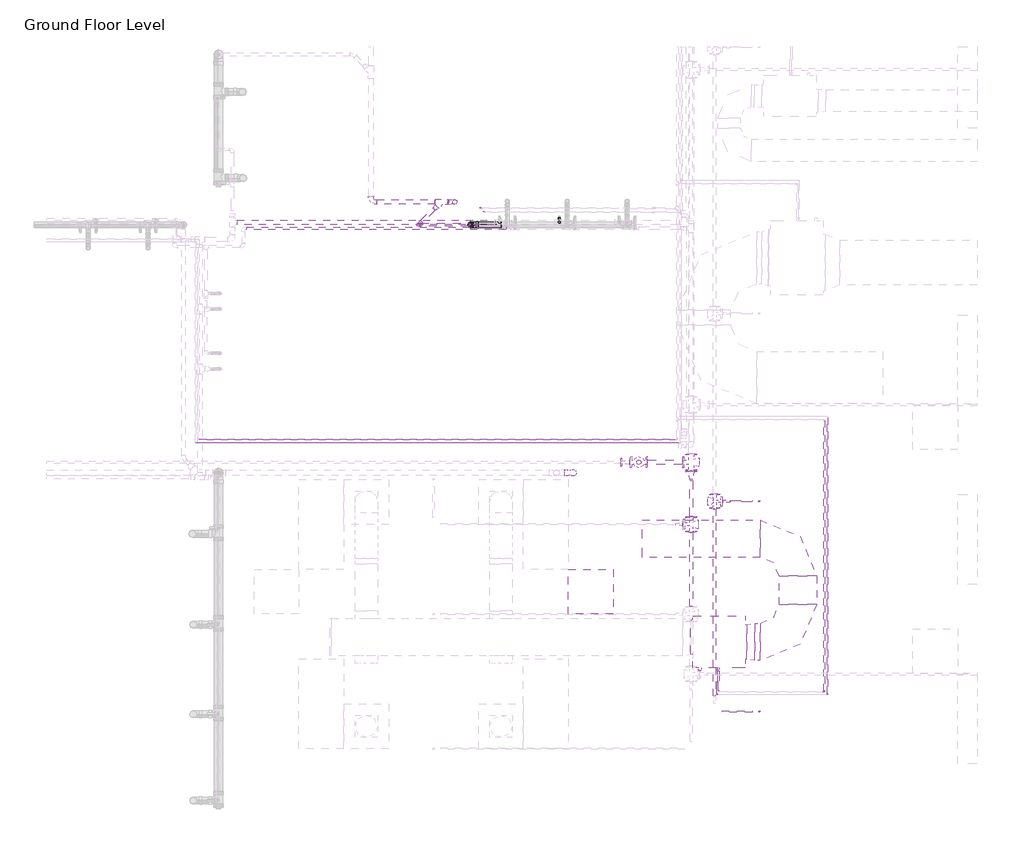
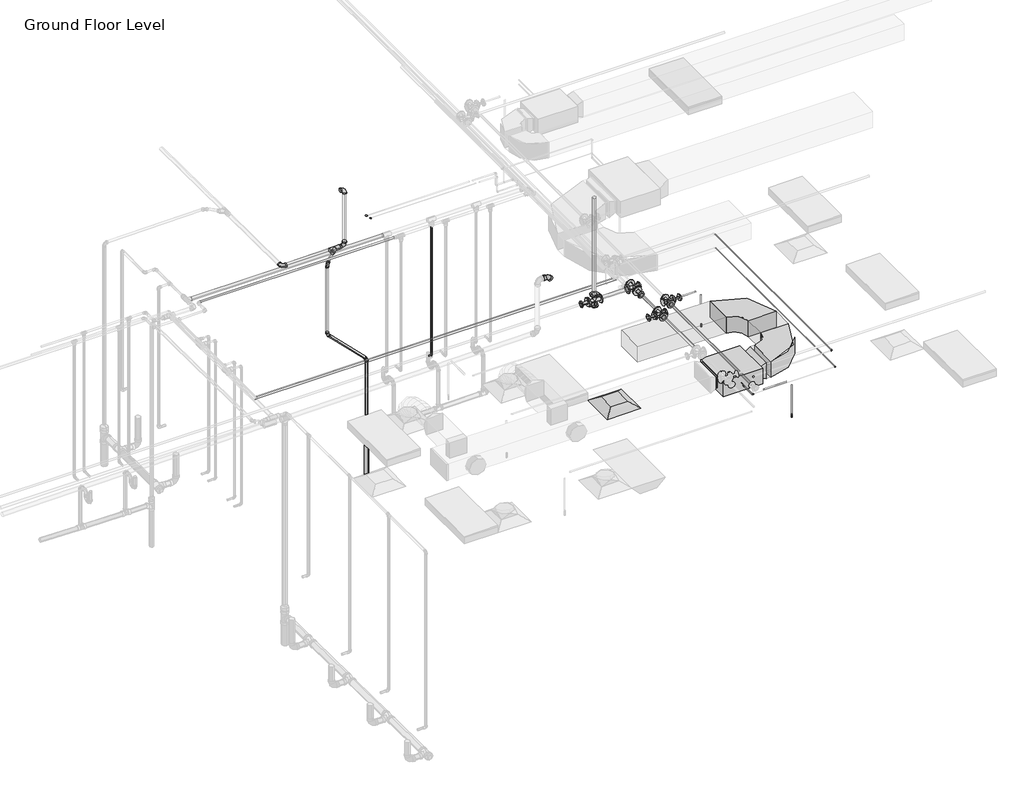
# One storey, part 16 of 75: 29 pipe segments, 24 pipe fittings, 3 duct fittings, 3 duct segments, 2 fire suppression terminals, 1 air terminal, 1 proxy.
"""IFC4 building model written with IfcOpenShell, lengths in millimetres."""

from ifc_helpers import new_model, si_unit, point, frame, frame_2d, origin, place, context, project, spatial, polyline, circle_curve, trimmed, segment, composite_curve, outline, extrude, transform, mapped, element, save
from components import m_return_diffuser_600_x_600_face_300_x_300_connection_ff221211, fcu_daikin_iu_bad131e0, m_rectangular_elbow_radius_1_w_abe20169, m_rectangular_transition_angle_45_degree_f7c2916c, m_sprinkler_pendent_15_mm_pendent_06fcbd8e, m_bend_pvc_sch_40_dwv_standard_123b45f9, m_bend_pvc_sch_40_dwv_standard_952ced8a, m_bend_pvc_sch_40_dwv_standard_1eaeee76, m_bend_pvc_sch_40_dwv_standard_35448a73, m_bend_pvc_sch_40_dwv_standard_15ff6dcd, m_bend_pvc_sch_40_dwv_standard_14735a05, m_elbow_generic_standard_a088f956, m_elbow_generic_standard_2a704253, m_elbow_generic_standard_bb5ffebe, m_elbow_generic_standard_f0c60a04, m_reducer_flanged_cs_class_150_standard_d42b2106, m_reducer_flanged_cs_class_150_standard_a7631c35, m_reducer_flanged_cs_class_150_standard_678fb8eb, m_reducer_flanged_cs_class_150_standard_13db1923, m_reducer_pvc_sch_40_dwv_standard_b84ad399, m_reducer_pvc_sch_40_dwv_standard_7e12a7c1, m_tee_pvc_sch_40_standard_19f5fb6d, m_tee_reducing_sanitary_pvc_sch_40_dwv_standard_b574f8c1, m_tee_round_base_flanged_cs_class_150_standard_dd767e04, m_tee_round_base_flanged_cs_class_150_standard_7e5987a1, m_tee_round_base_flanged_cs_class_150_standard_9c9133d0

model = new_model("IFC4")

# Units and contexts
model_context = context("Model", 3, world=origin())
ifc_project = project(units=[si_unit("LENGTHUNIT", "METRE", prefix="MILLI")], contexts=[model_context])

# Site, building, storey
site = spatial("IfcSite", under=ifc_project)
building = spatial("IfcBuilding", under=site)
storey = spatial("IfcBuildingStorey", under=building, Name="Ground Floor Level", Elevation=900.0)

# Air terminal
placement = place(None, origin())
m_return_diffuser_600_x_600_face_300_x_300_connection_shape = m_return_diffuser_600_x_600_face_300_x_300_connection_ff221211(model_context)
element("IfcAirTerminal", 1, ObjectType="M_Return Diffuser : 600 x 600 Face 300 x 300 Connection", at=placement, inside=storey, context=model_context, shape_type="MappedRepresentation", body=[
    mapped(m_return_diffuser_600_x_600_face_300_x_300_connection_shape, transform((4342.7672394, -37764.7846466, 3650.0), x_axis=(1.0, 0.0, 0.0), y_axis=(0.0, 1.0, 0.0), z_axis=(0.0, 0.0, 1.0))),
])

# Proxy
fcu_daikin_iu_shape = fcu_daikin_iu_bad131e0(model_context)
element("IfcBuildingElementProxy", 2, Name="FCU-DAIKIN IU : 4.5kW, 230V/50Hz/1Ph", ObjectType="FCU-DAIKIN IU : 4.5kW, 230V/50Hz/1Ph", at=placement, inside=storey, context=model_context, shape_type="MappedRepresentation", body=[
    mapped(fcu_daikin_iu_shape, transform((6052.7672394, -38436.1128682, 3934.0875), x_axis=(0.0, -1.0, 0.0), y_axis=(1.0, 0.0, 0.0), z_axis=(0.0, 0.0, 1.0))),
])

# Duct fittings
m_rectangular_elbow_radius_1_w_shape = m_rectangular_elbow_radius_1_w_abe20169(model_context)
element("IfcDuctFitting", 3, ObjectType="M_Rectangular Elbow - Radius : 1 W", at=placement, inside=storey, context=model_context, shape_type="MappedRepresentation", body=[
    mapped(m_rectangular_elbow_radius_1_w_shape, transform((7108.1672394, -38436.1128682, 4075.2875), x_axis=(1.0, 0.0, 0.0), y_axis=(0.0, 1.0, 0.0), z_axis=(0.0, 0.0, 1.0))),
])
element("IfcDuctFitting", 4, ObjectType="M_Rectangular Elbow - Radius : 1 W", at=placement, inside=storey, context=model_context, shape_type="MappedRepresentation", body=[
    mapped(m_rectangular_elbow_radius_1_w_shape, transform((7108.1672394, -37056.1128682, 4075.2875), x_axis=(0.0, 1.0, 0.0), y_axis=(-1.0, 0.0, 0.0), z_axis=(0.0, 0.0, 1.0))),
])
m_rectangular_transition_angle_45_degree_shape = m_rectangular_transition_angle_45_degree_f7c2916c(model_context)
element("IfcDuctFitting", 5, ObjectType="M_Rectangular Transition - Angle : 45 Degree", at=placement, inside=storey, context=model_context, shape_type="MappedRepresentation", body=[
    mapped(m_rectangular_transition_angle_45_degree_shape, transform((6428.1672394, -38436.1128682, 4075.2875), x_axis=(1.0, 0.0, 0.0), y_axis=(0.0, 1.0, 0.0), z_axis=(0.0, 0.0, 1.0))),
])

# Duct segments
element("IfcDuctSegment", 6, ObjectType="Radius Elbows / Taps", at=placement, inside=storey, context=model_context, shape_type="SweptSolid", body=[
    extrude(outline(polyline([(6531.6162906, -38686.1128682), (6531.6162906, -38186.1128682), (6608.1672394, -38186.1128682), (6608.1672394, -38686.1128682), (6531.6162906, -38686.1128682)])), frame((0.0, 0.0, 3925.2875), z_axis=(0.0, 0.0, 1.0), x_axis=(1.0, 0.0, 0.0)), (0.0, 0.0, 1.0), 300.0),
])
element("IfcDuctSegment", 7, ObjectType="Radius Elbows / Taps", at=placement, inside=storey, context=model_context, shape_type="SweptSolid", body=[
    extrude(outline(polyline([(7358.1672394, -37936.1128682), (6858.1672394, -37936.1128682), (6858.1672394, -37556.1128682), (7358.1672394, -37556.1128682), (7358.1672394, -37936.1128682)])), frame((0.0, 0.0, 3925.2875), z_axis=(0.0, 0.0, 1.0), x_axis=(1.0, 0.0, 0.0)), (0.0, 0.0, 1.0), 300.0),
])
element("IfcDuctSegment", 8, ObjectType="Radius Elbows / Taps", at=placement, inside=storey, context=model_context, shape_type="SweptSolid", body=[
    extrude(outline(polyline([(6608.1672394, -36806.1128682), (6608.1672394, -37306.1128682), (5028.1672394, -37306.1128682), (5028.1672394, -36806.1128682), (6608.1672394, -36806.1128682)])), frame((0.0, 0.0, 3925.2875), z_axis=(0.0, 0.0, 1.0), x_axis=(1.0, 0.0, 0.0)), (0.0, 0.0, 1.0), 300.0),
])

# Fire suppression terminals
m_sprinkler_pendent_15_mm_pendent_shape = m_sprinkler_pendent_15_mm_pendent_06fcbd8e(model_context)
element("IfcFireSuppressionTerminal", 9, ObjectType="M_Sprinkler - Pendent : 15 mm Pendent", at=placement, inside=storey, context=model_context, shape_type="MappedRepresentation", body=[
    mapped(m_sprinkler_pendent_15_mm_pendent_shape, transform((6592.5481019, -36555.4049984, 3650.0), x_axis=(1.0, 0.0, 0.0), y_axis=(0.0, 1.0, 0.0), z_axis=(0.0, 0.0, 1.0))),
])
element("IfcFireSuppressionTerminal", 10, ObjectType="M_Sprinkler - Pendent : 15 mm Pendent", at=placement, inside=storey, context=model_context, shape_type="MappedRepresentation", body=[
    mapped(m_sprinkler_pendent_15_mm_pendent_shape, transform((6592.5481019, -39366.4607861, 3650.0), x_axis=(1.0, 0.0, 0.0), y_axis=(0.0, 1.0, 0.0), z_axis=(0.0, 0.0, 1.0))),
])

# Pipe fittings
m_bend_pvc_sch_40_dwv_standard_shape = m_bend_pvc_sch_40_dwv_standard_123b45f9(model_context)
element("IfcPipeFitting", 11, ObjectType="M_Bend - PVC - Sch 40 - DWV : Standard", at=placement, inside=storey, context=model_context, shape_type="MappedRepresentation", body=[
    mapped(m_bend_pvc_sch_40_dwv_standard_shape, transform((1404.8829692, -32554.2948449, 4125.20016), x_axis=(0.0, -0.9999500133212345, 0.009998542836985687), y_axis=(0.9999500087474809, 9.997543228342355e-05, 0.00999850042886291), z_axis=(-0.009999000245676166, 0.0099980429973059, 0.9999000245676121))),
])
m_bend_pvc_sch_40_dwv_standard_2_shape = m_bend_pvc_sch_40_dwv_standard_952ced8a(model_context)
element("IfcPipeFitting", 12, ObjectType="M_Bend - PVC - Sch 40 - DWV : Standard", at=placement, inside=storey, context=model_context, shape_type="MappedRepresentation", body=[
    mapped(m_bend_pvc_sch_40_dwv_standard_2_shape, transform((2524.6562734, -32554.2948449, 4136.397893), x_axis=(0.9999500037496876, 0.0, 0.009999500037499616), y_axis=(-0.009999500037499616, 0.0, 0.9999500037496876), z_axis=(0.0, -1.0, 0.0))),
])
m_bend_pvc_sch_40_dwv_standard_3_shape = m_bend_pvc_sch_40_dwv_standard_1eaeee76(model_context)
element("IfcPipeFitting", 13, ObjectType="M_Bend - PVC - Sch 40 - DWV : Standard", at=placement, inside=storey, context=model_context, shape_type="MappedRepresentation", body=[
    mapped(m_bend_pvc_sch_40_dwv_standard_3_shape, transform((2524.640275, -32554.2948449, 5200.0), x_axis=(0.0, 0.0, 1.0), y_axis=(-1.0, 0.0, 0.0), z_axis=(0.0, -1.0, 0.0))),
])
m_bend_pvc_sch_40_dwv_standard_4_shape = m_bend_pvc_sch_40_dwv_standard_35448a73(model_context)
element("IfcPipeFitting", 14, ObjectType="M_Bend - PVC - Sch 40 - DWV : Standard", at=placement, inside=storey, context=model_context, shape_type="MappedRepresentation", body=[
    mapped(m_bend_pvc_sch_40_dwv_standard_4_shape, transform((2740.8154211, -32858.7119065, 2103.6875), x_axis=(0.0, 0.0, 1.0), y_axis=(-1.0, 0.0, 0.0), z_axis=(0.0, -1.0, 0.0))),
])
element("IfcPipeFitting", 15, ObjectType="M_Bend - PVC - Sch 40 - DWV : Standard", at=placement, inside=storey, context=model_context, shape_type="MappedRepresentation", body=[
    mapped(m_bend_pvc_sch_40_dwv_standard_4_shape, transform((2040.8154211, -32858.7119065, 2803.6875), x_axis=(0.0, 0.0, -1.0), y_axis=(1.0, 0.0, 0.0), z_axis=(0.0, -1.0, 0.0))),
])
m_bend_pvc_sch_40_dwv_standard_5_shape = m_bend_pvc_sch_40_dwv_standard_15ff6dcd(model_context)
element("IfcPipeFitting", 16, ObjectType="M_Bend - PVC - Sch 40 - DWV : Standard", at=placement, inside=storey, context=model_context, shape_type="MappedRepresentation", body=[
    mapped(m_bend_pvc_sch_40_dwv_standard_5_shape, transform((2040.8154211, -32858.7119065, 4132.2), x_axis=(0.0, 0.0, 1.0), y_axis=(0.7067664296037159, 0.7074469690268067, 0.0), z_axis=(-0.7074469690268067, 0.7067664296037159, 0.0))),
])
m_bend_pvc_sch_40_dwv_standard_6_shape = m_bend_pvc_sch_40_dwv_standard_14735a05(model_context)
element("IfcPipeFitting", 17, ObjectType="M_Bend - PVC - Sch 40 - DWV : Standard", at=placement, inside=storey, context=model_context, shape_type="MappedRepresentation", body=[
    mapped(m_bend_pvc_sch_40_dwv_standard_6_shape, transform((4066.142039, -36176.1401483, 5198.6726756), x_axis=(0.9999500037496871, 0.0, -0.009999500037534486), y_axis=(-0.009999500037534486, 0.0, -0.9999500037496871), z_axis=(0.0, 1.0, 0.0))),
])
m_elbow_generic_standard_shape = m_elbow_generic_standard_a088f956(model_context)
element("IfcPipeFitting", 18, ObjectType="M_Elbow - Generic : Standard", at=placement, inside=storey, context=model_context, shape_type="MappedRepresentation", body=[
    mapped(m_elbow_generic_standard_shape, transform((7462.8951827, -39103.1206952, 4390.0), x_axis=(1.0, 0.0, 0.0), y_axis=(0.0, 1.0, 0.0), z_axis=(0.0, 0.0, 1.0))),
])
m_elbow_generic_standard_2_shape = m_elbow_generic_standard_2a704253(model_context)
element("IfcPipeFitting", 19, ObjectType="M_Elbow - Generic : Standard", at=placement, inside=storey, context=model_context, shape_type="MappedRepresentation", body=[
    mapped(m_elbow_generic_standard_2_shape, transform((7503.9904113, -39140.6009836, 4084.9), x_axis=(1.0, 0.0, 0.0), y_axis=(0.0, 1.0, 0.0), z_axis=(0.0, 0.0, 1.0))),
])
element("IfcPipeFitting", 20, ObjectType="M_Elbow - Generic : Standard", at=placement, inside=storey, context=model_context, shape_type="MappedRepresentation", body=[
    mapped(m_elbow_generic_standard_2_shape, transform((6027.7672393, -39140.6009836, 4084.9), x_axis=(0.0, -0.9999999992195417, 3.9508437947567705e-05), y_axis=(1.0000000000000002, 0.0, 0.0), z_axis=(0.0, 3.9508437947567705e-05, 0.9999999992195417))),
])
m_elbow_generic_standard_3_shape = m_elbow_generic_standard_bb5ffebe(model_context)
element("IfcPipeFitting", 21, ObjectType="M_Elbow - Generic : Standard", at=placement, inside=storey, context=model_context, shape_type="MappedRepresentation", body=[
    mapped(m_elbow_generic_standard_3_shape, transform((2867.2893107, -32638.716218, 4621.4908765), x_axis=(0.0, -1.0, 0.0), y_axis=(1.0, 0.0, 0.0), z_axis=(0.0, 0.0, 1.0))),
])
m_elbow_generic_standard_4_shape = m_elbow_generic_standard_f0c60a04(model_context)
element("IfcPipeFitting", 22, ObjectType="M_Elbow - Generic : Standard", at=placement, inside=storey, context=model_context, shape_type="MappedRepresentation", body=[
    mapped(m_elbow_generic_standard_4_shape, transform((2911.3621079, -32691.5527522, 4591.0863665), x_axis=(0.0, -1.0, 0.0), y_axis=(1.0, 0.0, 0.0), z_axis=(0.0, 0.0, 1.0))),
])
m_reducer_flanged_cs_class_150_standard_shape = m_reducer_flanged_cs_class_150_standard_d42b2106(model_context)
element("IfcPipeFitting", 23, ObjectType="M_Reducer - Flanged - CS - Class 150 : Standard", at=placement, inside=storey, context=model_context, shape_type="MappedRepresentation", body=[
    mapped(m_reducer_flanged_cs_class_150_standard_shape, transform((6097.7664057, -36555.4049984, 4291.2754753), x_axis=(1.0, 0.0, 0.0), y_axis=(0.0, 0.0, -1.0), z_axis=(0.0, 1.0, 0.0))),
])
m_reducer_flanged_cs_class_150_standard_2_shape = m_reducer_flanged_cs_class_150_standard_a7631c35(model_context)
element("IfcPipeFitting", 24, ObjectType="M_Reducer - Flanged - CS - Class 150 : Standard", at=placement, inside=storey, context=model_context, shape_type="MappedRepresentation", body=[
    mapped(m_reducer_flanged_cs_class_150_standard_2_shape, transform((4870.6174894, -36033.7985971, 4347.5), x_axis=(-1.0, 0.0, 0.0), y_axis=(0.0, -1.0, 0.0), z_axis=(0.0, 0.0, 1.0))),
])
m_reducer_flanged_cs_class_150_standard_3_shape = m_reducer_flanged_cs_class_150_standard_678fb8eb(model_context)
element("IfcPipeFitting", 25, ObjectType="M_Reducer - Flanged - CS - Class 150 : Standard", at=placement, inside=storey, context=model_context, shape_type="MappedRepresentation", body=[
    mapped(m_reducer_flanged_cs_class_150_standard_3_shape, transform((5578.5188957, -36864.7846466, 4347.5), x_axis=(-1.0, 0.0, 0.0), y_axis=(0.0, -1.0, 0.0), z_axis=(0.0, 0.0, 1.0))),
])
m_reducer_flanged_cs_class_150_standard_4_shape = m_reducer_flanged_cs_class_150_standard_13db1923(model_context)
element("IfcPipeFitting", 26, ObjectType="M_Reducer - Flanged - CS - Class 150 : Standard", at=placement, inside=storey, context=model_context, shape_type="MappedRepresentation", body=[
    mapped(m_reducer_flanged_cs_class_150_standard_4_shape, transform((5684.6174894, -36147.7985971, 4347.5), x_axis=(0.0, -1.0, 0.0), y_axis=(1.0, 0.0, 0.0), z_axis=(0.0, 0.0, 1.0))),
])
m_reducer_pvc_sch_40_dwv_standard_shape = m_reducer_pvc_sch_40_dwv_standard_b84ad399(model_context)
element("IfcPipeFitting", 27, ObjectType="M_Reducer - PVC - Sch 40 - DWV : Standard", at=placement, inside=storey, context=model_context, shape_type="MappedRepresentation", body=[
    mapped(m_reducer_pvc_sch_40_dwv_standard_shape, transform((2740.8154211, -32858.7119065, 785.9492095), x_axis=(0.0, 0.0, 1.0), y_axis=(-1.0, 0.0, 0.0), z_axis=(0.0, -1.0, 0.0))),
])
m_reducer_pvc_sch_40_dwv_standard_2_shape = m_reducer_pvc_sch_40_dwv_standard_7e12a7c1(model_context)
element("IfcPipeFitting", 28, ObjectType="M_Reducer - PVC - Sch 40 - DWV : Standard", at=placement, inside=storey, context=model_context, shape_type="MappedRepresentation", body=[
    mapped(m_reducer_pvc_sch_40_dwv_standard_2_shape, transform((2285.3872765, -32613.9038225, 4134.1686229), x_axis=(-0.7067614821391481, -0.707433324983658, -0.0051281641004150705), y_axis=(0.7073812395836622, -0.7067747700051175, 0.009011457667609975), z_axis=(-0.009999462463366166, 0.0027413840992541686, 0.999946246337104))),
])
m_tee_pvc_sch_40_standard_shape = m_tee_pvc_sch_40_standard_19f5fb6d(model_context)
element("IfcPipeFitting", 29, ObjectType="M_Tee - PVC - Sch 40 : Standard", at=placement, inside=storey, context=model_context, shape_type="MappedRepresentation", body=[
    mapped(m_tee_pvc_sch_40_standard_shape, transform((2344.939644, -32554.2948449, 4134.6007267), x_axis=(0.9999500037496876, 0.0, 0.009999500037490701), y_axis=(2.7412470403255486e-05, 0.9999962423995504, -0.002741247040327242), z_axis=(-0.009999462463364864, 0.0027413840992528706, 0.9999462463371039))),
])
m_tee_reducing_sanitary_pvc_sch_40_dwv_standard_shape = m_tee_reducing_sanitary_pvc_sch_40_dwv_standard_b574f8c1(model_context)
element("IfcPipeFitting", 30, ObjectType="M_Tee Reducing Sanitary - PVC - Sch 40 - DWV : Standard", at=placement, inside=storey, context=model_context, shape_type="MappedRepresentation", body=[
    mapped(m_tee_reducing_sanitary_pvc_sch_40_dwv_standard_shape, transform((2740.8154211, -32858.7119065, 701.6), x_axis=(0.0, 0.0, 1.0), y_axis=(-1.0, 0.0, 0.0), z_axis=(0.0, -1.0, 0.0))),
])
m_tee_round_base_flanged_cs_class_150_standard_shape = m_tee_round_base_flanged_cs_class_150_standard_dd767e04(model_context)
element("IfcPipeFitting", 31, ObjectType="M_Tee Round Base - Flanged - CS - Class 150 : Standard", at=placement, inside=storey, context=model_context, shape_type="MappedRepresentation", body=[
    mapped(m_tee_round_base_flanged_cs_class_150_standard_shape, transform((5684.6174894, -36033.7985971, 4347.5), x_axis=(0.0, 1.0, 0.0), y_axis=(1.0, 0.0, 0.0), z_axis=(0.0, 0.0, -1.0))),
])
element("IfcPipeFitting", 32, ObjectType="M_Tee Round Base - Flanged - CS - Class 150 : Standard", at=placement, inside=storey, context=model_context, shape_type="MappedRepresentation", body=[
    mapped(m_tee_round_base_flanged_cs_class_150_standard_shape, transform((4984.6174894, -36033.7985971, 4347.5), x_axis=(-1.0, 0.0, 0.0), y_axis=(0.0, 0.0, -1.0), z_axis=(0.0, -1.0, 0.0))),
])
m_tee_round_base_flanged_cs_class_150_standard_2_shape = m_tee_round_base_flanged_cs_class_150_standard_7e5987a1(model_context)
element("IfcPipeFitting", 33, ObjectType="M_Tee Round Base - Flanged - CS - Class 150 : Standard", at=placement, inside=storey, context=model_context, shape_type="MappedRepresentation", body=[
    mapped(m_tee_round_base_flanged_cs_class_150_standard_2_shape, transform((5997.057812, -36555.4049984, 4291.0943441), x_axis=(0.0, 1.0, 0.0), y_axis=(-1.0, 0.0, 0.0), z_axis=(0.0, 0.0, 1.0))),
])
m_tee_round_base_flanged_cs_class_150_standard_3_shape = m_tee_round_base_flanged_cs_class_150_standard_9c9133d0(model_context)
element("IfcPipeFitting", 34, ObjectType="M_Tee Round Base - Flanged - CS - Class 150 : Standard", at=placement, inside=storey, context=model_context, shape_type="MappedRepresentation", body=[
    mapped(m_tee_round_base_flanged_cs_class_150_standard_3_shape, transform((5684.6174894, -36864.7846466, 4347.5), x_axis=(0.0, 1.0, 0.0), y_axis=(1.0, 0.0, 0.0), z_axis=(0.0, 0.0, -1.0))),
])

# Pipe segments
element("IfcPipeSegment", 35, ObjectType="CPVC", at=placement, inside=storey, context=model_context, shape_type="SweptSolid", body=[
    extrude(outline(composite_curve([segment(trimmed(circle_curve(frame_2d((1690.0, 3922.4697583)), 13.335), [point((1690.0, 3935.8047583))], [point((1703.335, 3922.4697583))], False, "CARTESIAN"), True, "CONTINUOUS"), segment(trimmed(circle_curve(frame_2d((1690.0, 3922.4697583)), 13.335), [point((1703.335, 3922.4697583))], [point((1690.0, 3909.1347583))], False, "CARTESIAN"), True, "CONTINUOUS"), segment(trimmed(circle_curve(frame_2d((1690.0, 3922.4697583)), 13.335), [point((1690.0, 3909.1347583))], [point((1676.665, 3922.4697583))], False, "CARTESIAN"), True, "CONTINUOUS"), segment(trimmed(circle_curve(frame_2d((1690.0, 3922.4697583)), 13.335), [point((1676.665, 3922.4697583))], [point((1690.0, 3935.8047583))], False, "CARTESIAN"), True, "CONTINUOUS")], self_intersect=False)), frame((0.0, -32789.6602951, 0.0), z_axis=(0.0, 1.0, 0.0), x_axis=(0.0, 0.0, 1.0)), (0.0, 0.0, 1.0), 24.8756485),
])
element("IfcPipeSegment", 36, ObjectType="CPVC", at=placement, inside=storey, context=model_context, shape_type="SweptSolid", body=[
    extrude(outline(composite_curve([segment(trimmed(circle_curve(frame_2d((3922.4697583, -32824.9853451)), 13.335), [point((3935.8047583, -32824.9853451))], [point((3922.4697583, -32838.3203451))], False, "CARTESIAN"), True, "CONTINUOUS"), segment(trimmed(circle_curve(frame_2d((3922.4697583, -32824.9853451)), 13.335), [point((3922.4697583, -32838.3203451))], [point((3909.1347583, -32824.9853451))], False, "CARTESIAN"), True, "CONTINUOUS"), segment(trimmed(circle_curve(frame_2d((3922.4697583, -32824.9853451)), 13.335), [point((3909.1347583, -32824.9853451))], [point((3922.4697583, -32811.6503451))], False, "CARTESIAN"), True, "CONTINUOUS"), segment(trimmed(circle_curve(frame_2d((3922.4697583, -32824.9853451)), 13.335), [point((3922.4697583, -32811.6503451))], [point((3935.8047583, -32824.9853451))], False, "CARTESIAN"), True, "CONTINUOUS")], self_intersect=False)), frame((0.0, 0.0, 1725.32505), z_axis=(0.0, 0.0, 1.0), x_axis=(1.0, 0.0, 0.0)), (0.0, 0.0, 1.0), 2431.503075),
])
element("IfcPipeSegment", 37, ObjectType="CPVC", at=placement, inside=storey, context=model_context, shape_type="SweptSolid", body=[
    extrude(outline(composite_curve([segment(trimmed(circle_curve(frame_2d((-32824.9853451, 4300.0)), 30.1625), [point((-32855.1478451, 4300.0))], [point((-32824.9853451, 4330.1625))], False, "CARTESIAN"), True, "CONTINUOUS"), segment(trimmed(circle_curve(frame_2d((-32824.9853451, 4300.0)), 30.1625), [point((-32824.9853451, 4330.1625))], [point((-32794.8228451, 4300.0))], False, "CARTESIAN"), True, "CONTINUOUS"), segment(trimmed(circle_curve(frame_2d((-32824.9853451, 4300.0)), 30.1625), [point((-32794.8228451, 4300.0))], [point((-32824.9853451, 4269.8375))], False, "CARTESIAN"), True, "CONTINUOUS"), segment(trimmed(circle_curve(frame_2d((-32824.9853451, 4300.0)), 30.1625), [point((-32824.9853451, 4269.8375))], [point((-32855.1478451, 4300.0))], False, "CARTESIAN"), True, "CONTINUOUS")], self_intersect=False)), frame((-380.5577605, 0.0, 0.0), z_axis=(1.0, 0.0, 0.0), x_axis=(0.0, 1.0, 0.0)), (0.0, 0.0, 1.0), 3436.3525188),
])
element("IfcPipeSegment", 38, ObjectType="CPVC", at=placement, inside=storey, context=model_context, shape_type="SweptSolid", body=[
    extrude(outline(composite_curve([segment(trimmed(circle_curve(frame_2d((-32905.870708, 4250.0)), 16.7005), [point((-32889.170208, 4250.0))], [point((-32905.870708, 4233.2995))], False, "CARTESIAN"), True, "CONTINUOUS"), segment(trimmed(circle_curve(frame_2d((-32905.870708, 4250.0)), 16.7005), [point((-32905.870708, 4233.2995))], [point((-32922.571208, 4250.0))], False, "CARTESIAN"), True, "CONTINUOUS"), segment(trimmed(circle_curve(frame_2d((-32905.870708, 4250.0)), 16.7005), [point((-32922.571208, 4250.0))], [point((-32905.870708, 4266.7005))], False, "CARTESIAN"), True, "CONTINUOUS"), segment(trimmed(circle_curve(frame_2d((-32905.870708, 4250.0)), 16.7005), [point((-32905.870708, 4266.7005))], [point((-32889.170208, 4250.0))], False, "CARTESIAN"), True, "CONTINUOUS")], self_intersect=False)), frame((-256.1798698, 0.0, 0.0), z_axis=(1.0, 0.0, 0.0), x_axis=(0.0, 1.0, 0.0)), (0.0, 0.0, 1.0), 3467.1855943),
])
element("IfcPipeSegment", 39, ObjectType="Copper", at=placement, inside=storey, context=model_context, shape_type="SweptSolid", body=[
    extrude(outline(composite_curve([segment(trimmed(circle_curve(frame_2d((-35730.466218, 4390.0)), 6.5), [point((-35723.966218, 4390.0))], [point((-35730.466218, 4383.5))], False, "CARTESIAN"), True, "CONTINUOUS"), segment(trimmed(circle_curve(frame_2d((-35730.466218, 4390.0)), 6.5), [point((-35730.466218, 4383.5))], [point((-35736.966218, 4390.0))], False, "CARTESIAN"), True, "CONTINUOUS"), segment(trimmed(circle_curve(frame_2d((-35730.466218, 4390.0)), 6.5), [point((-35736.966218, 4390.0))], [point((-35730.466218, 4396.5))], False, "CARTESIAN"), True, "CONTINUOUS"), segment(trimmed(circle_curve(frame_2d((-35730.466218, 4390.0)), 6.5), [point((-35730.466218, 4396.5))], [point((-35723.966218, 4390.0))], False, "CARTESIAN"), True, "CONTINUOUS")], self_intersect=False)), frame((-882.8173173, 0.0, 0.0), z_axis=(1.0, 0.0, 0.0), x_axis=(0.0, 1.0, 0.0)), (0.0, 0.0, 1.0), 6366.425),
])
element("IfcPipeSegment", 40, ObjectType="Copper", at=placement, inside=storey, context=model_context, shape_type="SweptSolid", body=[
    extrude(outline(composite_curve([segment(trimmed(circle_curve(frame_2d((-35773.5402522, 4377.5)), 3.35), [point((-35770.1902522, 4377.5))], [point((-35773.5402522, 4374.15))], False, "CARTESIAN"), True, "CONTINUOUS"), segment(trimmed(circle_curve(frame_2d((-35773.5402522, 4377.5)), 3.35), [point((-35773.5402522, 4374.15))], [point((-35776.8902522, 4377.5))], False, "CARTESIAN"), True, "CONTINUOUS"), segment(trimmed(circle_curve(frame_2d((-35773.5402522, 4377.5)), 3.35), [point((-35776.8902522, 4377.5))], [point((-35773.5402522, 4380.85))], False, "CARTESIAN"), True, "CONTINUOUS"), segment(trimmed(circle_curve(frame_2d((-35773.5402522, 4377.5)), 3.35), [point((-35773.5402522, 4380.85))], [point((-35770.1902522, 4377.5))], False, "CARTESIAN"), True, "CONTINUOUS")], self_intersect=False)), frame((-929.8720887, 0.0, 0.0), z_axis=(1.0, 0.0, 0.0), x_axis=(0.0, 1.0, 0.0)), (0.0, 0.0, 1.0), 6462.725),
])
element("IfcPipeSegment", 41, ObjectType="Copper", at=placement, inside=storey, context=model_context, shape_type="SweptSolid", body=[
    extrude(outline(composite_curve([segment(trimmed(circle_curve(frame_2d((4390.0, 7462.8951827)), 6.5), [point((4390.0, 7456.3951827))], [point((4383.5, 7462.8951827))], False, "CARTESIAN"), True, "CONTINUOUS"), segment(trimmed(circle_curve(frame_2d((4390.0, 7462.8951827)), 6.5), [point((4383.5, 7462.8951827))], [point((4390.0, 7469.3951827))], False, "CARTESIAN"), True, "CONTINUOUS"), segment(trimmed(circle_curve(frame_2d((4390.0, 7462.8951827)), 6.5), [point((4390.0, 7469.3951827))], [point((4396.5, 7462.8951827))], False, "CARTESIAN"), True, "CONTINUOUS"), segment(trimmed(circle_curve(frame_2d((4390.0, 7462.8951827)), 6.5), [point((4396.5, 7462.8951827))], [point((4390.0, 7456.3951827))], False, "CARTESIAN"), True, "CONTINUOUS")], self_intersect=False)), frame((0.0, -39088.8331952, 0.0), z_axis=(0.0, 1.0, 0.0), x_axis=(0.0, 0.0, 1.0)), (0.0, 0.0, 1.0), 3611.425),
])
element("IfcPipeSegment", 42, ObjectType="Copper", at=placement, inside=storey, context=model_context, shape_type="SweptSolid", body=[
    extrude(outline(composite_curve([segment(trimmed(circle_curve(frame_2d((4084.9, 7503.9904113)), 3.35), [point((4084.9, 7500.6404113))], [point((4081.55, 7503.9904113))], False, "CARTESIAN"), True, "CONTINUOUS"), segment(trimmed(circle_curve(frame_2d((4084.9, 7503.9904113)), 3.35), [point((4081.55, 7503.9904113))], [point((4084.9, 7507.3404113))], False, "CARTESIAN"), True, "CONTINUOUS"), segment(trimmed(circle_curve(frame_2d((4084.9, 7503.9904113)), 3.35), [point((4084.9, 7507.3404113))], [point((4088.25, 7503.9904113))], False, "CARTESIAN"), True, "CONTINUOUS"), segment(trimmed(circle_curve(frame_2d((4084.9, 7503.9904113)), 3.35), [point((4088.25, 7503.9904113))], [point((4084.9, 7500.6404113))], False, "CARTESIAN"), True, "CONTINUOUS")], self_intersect=False)), frame((0.0, -39129.4634836, 0.0), z_axis=(0.0, 1.0, 0.0), x_axis=(0.0, 0.0, 1.0)), (0.0, 0.0, 1.0), 3697.725),
])
element("IfcPipeSegment", 43, ObjectType="Copper", at=placement, inside=storey, context=model_context, shape_type="SweptSolid", body=[
    extrude(outline(composite_curve([segment(trimmed(circle_curve(frame_2d((0.0, -3.35)), 3.35), [point((0.0, -6.7))], [point((-3.35, -3.35))], False, "CARTESIAN"), True, "CONTINUOUS"), segment(trimmed(circle_curve(frame_2d((0.0, -3.35)), 3.35), [point((-3.35, -3.35))], [point((0.0, 0.0))], False, "CARTESIAN"), True, "CONTINUOUS"), segment(trimmed(circle_curve(frame_2d((0.0, -3.35)), 3.35), [point((0.0, 0.0))], [point((3.35, -3.35))], False, "CARTESIAN"), True, "CONTINUOUS"), segment(trimmed(circle_curve(frame_2d((0.0, -3.35)), 3.35), [point((3.35, -3.35))], [point((0.0, -6.7))], False, "CARTESIAN"), True, "CONTINUOUS")], self_intersect=False)), frame((6024.4172393, -38824.2128682, 4084.8875), z_axis=(0.0, -0.9999999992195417, 3.950843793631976e-05), x_axis=(0.0, 3.950843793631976e-05, 0.9999999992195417)), (0.0, 0.0, 1.0), 305.2506156),
])
element("IfcPipeSegment", 44, ObjectType="Copper", at=placement, inside=storey, context=model_context, shape_type="SweptSolid", body=[
    extrude(outline(composite_curve([segment(trimmed(circle_curve(frame_2d((4034.0875, 6052.7672394)), 6.5), [point((4034.0875, 6046.2672394))], [point((4027.5875, 6052.7672394))], False, "CARTESIAN"), True, "CONTINUOUS"), segment(trimmed(circle_curve(frame_2d((4034.0875, 6052.7672394)), 6.5), [point((4027.5875, 6052.7672394))], [point((4034.0875, 6059.2672394))], False, "CARTESIAN"), True, "CONTINUOUS"), segment(trimmed(circle_curve(frame_2d((4034.0875, 6052.7672394)), 6.5), [point((4034.0875, 6059.2672394))], [point((4040.5875, 6052.7672394))], False, "CARTESIAN"), True, "CONTINUOUS"), segment(trimmed(circle_curve(frame_2d((4034.0875, 6052.7672394)), 6.5), [point((4040.5875, 6052.7672394))], [point((4034.0875, 6046.2672394))], False, "CARTESIAN"), True, "CONTINUOUS")], self_intersect=False)), frame((0.0, -39088.8331952, 0.0), z_axis=(0.0, 1.0, 0.0), x_axis=(0.0, 0.0, 1.0)), (0.0, 0.0, 1.0), 264.6203269),
])
element("IfcPipeSegment", 45, ObjectType="PVC - DWV", at=placement, inside=storey, context=model_context, shape_type="SweptSolid", body=[
    extrude(outline(composite_curve([segment(trimmed(circle_curve(frame_2d((0.0, -36.5125)), 36.5125), [point((0.0, 0.0))], [point((36.5125, -36.5125))], False, "CARTESIAN"), True, "CONTINUOUS"), segment(trimmed(circle_curve(frame_2d((0.0, -36.5125)), 36.5125), [point((36.5125, -36.5125))], [point((0.0, -73.025))], False, "CARTESIAN"), True, "CONTINUOUS"), segment(trimmed(circle_curve(frame_2d((0.0, -36.5125)), 36.5125), [point((0.0, -73.025))], [point((-36.5125, -36.5125))], False, "CARTESIAN"), True, "CONTINUOUS"), segment(trimmed(circle_curve(frame_2d((0.0, -36.5125)), 36.5125), [point((-36.5125, -36.5125))], [point((0.0, 0.0))], False, "CARTESIAN"), True, "CONTINUOUS")], self_intersect=False)), frame((2840.7783918, -32822.1994065, 702.5996297), z_axis=(0.9999500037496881, 0.0, 0.0099995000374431), x_axis=(0.0099995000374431, 0.0, -0.9999500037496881)), (0.0, 0.0, 1.0), 306.9624682),
])
element("IfcPipeSegment", 46, ObjectType="PVC - DWV", at=placement, inside=storey, context=model_context, shape_type="SweptSolid", body=[
    extrude(outline(composite_curve([segment(trimmed(circle_curve(frame_2d((2740.8154211, -32858.7119065)), 36.5125), [point((2777.3279211, -32858.7119065))], [point((2740.8154211, -32895.2244065))], False, "CARTESIAN"), True, "CONTINUOUS"), segment(trimmed(circle_curve(frame_2d((2740.8154211, -32858.7119065)), 36.5125), [point((2740.8154211, -32895.2244065))], [point((2704.3029211, -32858.7119065))], False, "CARTESIAN"), True, "CONTINUOUS"), segment(trimmed(circle_curve(frame_2d((2740.8154211, -32858.7119065)), 36.5125), [point((2704.3029211, -32858.7119065))], [point((2740.8154211, -32822.1994065))], False, "CARTESIAN"), True, "CONTINUOUS"), segment(trimmed(circle_curve(frame_2d((2740.8154211, -32858.7119065)), 36.5125), [point((2740.8154211, -32822.1994065))], [point((2777.3279211, -32858.7119065))], False, "CARTESIAN"), True, "CONTINUOUS")], self_intersect=False)), frame((0.0, 0.0, -100.0), z_axis=(0.0, 0.0, 1.0), x_axis=(1.0, 0.0, 0.0)), (0.0, 0.0, 1.0), 703.7868813),
])
element("IfcPipeSegment", 47, ObjectType="PVC - DWV", at=placement, inside=storey, context=model_context, shape_type="SweptSolid", body=[
    extrude(outline(composite_curve([segment(trimmed(circle_curve(frame_2d((0.0, 30.1625)), 30.1625), [point((0.0, 0.0))], [point((-30.1625, 30.1625))], False, "CARTESIAN"), True, "CONTINUOUS"), segment(trimmed(circle_curve(frame_2d((0.0, 30.1625)), 30.1625), [point((-30.1625, 30.1625))], [point((0.0, 60.325))], False, "CARTESIAN"), True, "CONTINUOUS"), segment(trimmed(circle_curve(frame_2d((0.0, 30.1625)), 30.1625), [point((0.0, 60.325))], [point((30.1625, 30.1625))], False, "CARTESIAN"), True, "CONTINUOUS"), segment(trimmed(circle_curve(frame_2d((0.0, 30.1625)), 30.1625), [point((30.1625, 30.1625))], [point((0.0, 0.0))], False, "CARTESIAN"), True, "CONTINUOUS")], self_intersect=False)), frame((2429.196344, -32584.4573449, 4135.4432937), z_axis=(0.9999500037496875, 0.0, 0.009999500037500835), x_axis=(0.009999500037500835, 0.0, -0.9999500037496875)), (0.0, 0.0, 1.0), 17.6645023),
])
element("IfcPipeSegment", 48, ObjectType="PVC - DWV", at=placement, inside=storey, context=model_context, shape_type="SweptSolid", body=[
    extrude(outline(composite_curve([segment(trimmed(circle_curve(frame_2d((2740.8154211, -32858.7119065)), 36.5125), [point((2704.3029211, -32858.7119065))], [point((2740.8154211, -32822.1994065))], False, "CARTESIAN"), True, "CONTINUOUS"), segment(trimmed(circle_curve(frame_2d((2740.8154211, -32858.7119065)), 36.5125), [point((2740.8154211, -32822.1994065))], [point((2777.3279211, -32858.7119065))], False, "CARTESIAN"), True, "CONTINUOUS"), segment(trimmed(circle_curve(frame_2d((2740.8154211, -32858.7119065)), 36.5125), [point((2777.3279211, -32858.7119065))], [point((2740.8154211, -32895.2244065))], False, "CARTESIAN"), True, "CONTINUOUS"), segment(trimmed(circle_curve(frame_2d((2740.8154211, -32858.7119065)), 36.5125), [point((2740.8154211, -32895.2244065))], [point((2704.3029211, -32858.7119065))], False, "CARTESIAN"), True, "CONTINUOUS")], self_intersect=False)), frame((0.0, 0.0, 775.9492095), z_axis=(0.0, 0.0, 1.0), x_axis=(1.0, 0.0, 0.0)), (0.0, 0.0, 1.0), 10.0),
])
element("IfcPipeSegment", 49, ObjectType="PVC - DWV", at=placement, inside=storey, context=model_context, shape_type="SweptSolid", body=[
    extrude(outline(composite_curve([segment(trimmed(circle_curve(frame_2d((2040.8154211, -32858.7119065)), 21.082), [point((2019.7334211, -32858.7119065))], [point((2040.8154211, -32837.6299065))], False, "CARTESIAN"), True, "CONTINUOUS"), segment(trimmed(circle_curve(frame_2d((2040.8154211, -32858.7119065)), 21.082), [point((2040.8154211, -32837.6299065))], [point((2061.8974211, -32858.7119065))], False, "CARTESIAN"), True, "CONTINUOUS"), segment(trimmed(circle_curve(frame_2d((2040.8154211, -32858.7119065)), 21.082), [point((2061.8974211, -32858.7119065))], [point((2040.8154211, -32879.7939065))], False, "CARTESIAN"), True, "CONTINUOUS"), segment(trimmed(circle_curve(frame_2d((2040.8154211, -32858.7119065)), 21.082), [point((2040.8154211, -32879.7939065))], [point((2019.7334211, -32858.7119065))], False, "CARTESIAN"), True, "CONTINUOUS")], self_intersect=False)), frame((0.0, 0.0, 2846.5373), z_axis=(0.0, 0.0, 1.0), x_axis=(1.0, 0.0, 0.0)), (0.0, 0.0, 1.0), 1228.5127),
])
element("IfcPipeSegment", 50, ObjectType="PVC - DWV", at=placement, inside=storey, context=model_context, shape_type="SweptSolid", body=[
    extrude(outline(composite_curve([segment(trimmed(circle_curve(frame_2d((0.0, 21.082)), 21.082), [point((21.0816221, 20.9557578))], [point((-0.1262423, 0.000378))], False, "CARTESIAN"), True, "CONTINUOUS"), segment(trimmed(circle_curve(frame_2d((0.0, 21.082)), 21.082), [point((-0.1262423, 0.000378))], [point((-21.081622, 21.2082422))], False, "CARTESIAN"), True, "CONTINUOUS"), segment(trimmed(circle_curve(frame_2d((0.0, 21.082)), 21.082), [point((-21.081622, 21.2082422))], [point((0.1262422, 42.163622))], False, "CARTESIAN"), True, "CONTINUOUS"), segment(trimmed(circle_curve(frame_2d((0.0, 21.082)), 21.082), [point((0.1262422, 42.163622))], [point((21.0816221, 20.9557578))], False, "CARTESIAN"), True, "CONTINUOUS")], self_intersect=False)), frame((2081.2065914, -32818.4604636, 4153.5743147), z_axis=(0.7067527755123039, 0.7074352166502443, 0.005994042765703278), x_axis=(0.7074606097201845, -0.7067274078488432, -0.005988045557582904)), (0.0, 0.0, 1.0), 236.7434543),
])
element("IfcPipeSegment", 51, ObjectType="PVC - DWV", at=placement, inside=storey, context=model_context, shape_type="SweptSolid", body=[
    extrude(outline(composite_curve([segment(trimmed(circle_curve(frame_2d((0.0, 30.1625)), 30.1625), [point((-30.1625, 30.1625))], [point((0.0, 60.325))], False, "CARTESIAN"), True, "CONTINUOUS"), segment(trimmed(circle_curve(frame_2d((0.0, 30.1625)), 30.1625), [point((0.0, 60.325))], [point((30.1625, 30.1625))], False, "CARTESIAN"), True, "CONTINUOUS"), segment(trimmed(circle_curve(frame_2d((0.0, 30.1625)), 30.1625), [point((30.1625, 30.1625))], [point((0.0, 0.0))], False, "CARTESIAN"), True, "CONTINUOUS"), segment(trimmed(circle_curve(frame_2d((0.0, 30.1625)), 30.1625), [point((0.0, 0.0))], [point((-30.1625, 30.1625))], False, "CARTESIAN"), True, "CONTINUOUS")], self_intersect=False)), frame((2524.6562734, -32584.4573449, 4214.198093), z_axis=(-1.7619350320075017e-05, 0.0, 0.9999999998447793), x_axis=(0.9999999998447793, 0.0, 1.7619350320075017e-05)), (0.0, 0.0, 1.0), 908.0017071),
])
element("IfcPipeSegment", 52, ObjectType="PVC - DWV", at=placement, inside=storey, context=model_context, shape_type="SweptSolid", body=[
    extrude(outline(composite_curve([segment(trimmed(circle_curve(frame_2d((2740.8154211, -32858.7119065)), 21.082), [point((2719.7334211, -32858.7119065))], [point((2740.8154211, -32837.6299065))], False, "CARTESIAN"), True, "CONTINUOUS"), segment(trimmed(circle_curve(frame_2d((2740.8154211, -32858.7119065)), 21.082), [point((2740.8154211, -32837.6299065))], [point((2761.8974211, -32858.7119065))], False, "CARTESIAN"), True, "CONTINUOUS"), segment(trimmed(circle_curve(frame_2d((2740.8154211, -32858.7119065)), 21.082), [point((2761.8974211, -32858.7119065))], [point((2740.8154211, -32879.7939065))], False, "CARTESIAN"), True, "CONTINUOUS"), segment(trimmed(circle_curve(frame_2d((2740.8154211, -32858.7119065)), 21.082), [point((2740.8154211, -32879.7939065))], [point((2719.7334211, -32858.7119065))], False, "CARTESIAN"), True, "CONTINUOUS")], self_intersect=False)), frame((0.0, 0.0, 852.3553033), z_axis=(0.0, 0.0, 1.0), x_axis=(1.0, 0.0, 0.0)), (0.0, 0.0, 1.0), 1208.4823967),
])
element("IfcPipeSegment", 53, ObjectType="PVC - DWV", at=placement, inside=storey, context=model_context, shape_type="SweptSolid", body=[
    extrude(outline(composite_curve([segment(trimmed(circle_curve(frame_2d((0.0, 21.082)), 21.082), [point((0.0, 42.164))], [point((21.082, 21.082))], False, "CARTESIAN"), True, "CONTINUOUS"), segment(trimmed(circle_curve(frame_2d((0.0, 21.082)), 21.082), [point((21.082, 21.082))], [point((0.0, 0.0))], False, "CARTESIAN"), True, "CONTINUOUS"), segment(trimmed(circle_curve(frame_2d((0.0, 21.082)), 21.082), [point((0.0, 0.0))], [point((-21.082, 21.082))], False, "CARTESIAN"), True, "CONTINUOUS"), segment(trimmed(circle_curve(frame_2d((0.0, 21.082)), 21.082), [point((-21.082, 21.082))], [point((0.0, 42.164))], False, "CARTESIAN"), True, "CONTINUOUS")], self_intersect=False)), frame((2710.5160369, -32879.7939065, 2133.9868842), z_axis=(-0.7071067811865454, 0.0, 0.7071067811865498), x_axis=(0.7071067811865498, 0.0, 0.7071067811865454)), (0.0, 0.0, 1.0), 904.2498937),
])
element("IfcPipeSegment", 54, ObjectType="PVC - DWV", at=placement, inside=storey, context=model_context, shape_type="SweptSolid", body=[
    extrude(outline(composite_curve([segment(trimmed(circle_curve(frame_2d((0.0, 30.1625)), 30.1625), [point((0.0, 0.0))], [point((-30.1625, 30.1625))], False, "CARTESIAN"), True, "CONTINUOUS"), segment(trimmed(circle_curve(frame_2d((0.0, 30.1625)), 30.1625), [point((-30.1625, 30.1625))], [point((0.0, 60.325))], False, "CARTESIAN"), True, "CONTINUOUS"), segment(trimmed(circle_curve(frame_2d((0.0, 30.1625)), 30.1625), [point((0.0, 60.325))], [point((30.1625, 30.1625))], False, "CARTESIAN"), True, "CONTINUOUS"), segment(trimmed(circle_curve(frame_2d((0.0, 30.1625)), 30.1625), [point((30.1625, 30.1625))], [point((0.0, 0.0))], False, "CARTESIAN"), True, "CONTINUOUS")], self_intersect=False)), frame((1482.6792795, -32584.4573449, 4125.9781231), z_axis=(0.9999500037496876, 0.0, 0.009999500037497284), x_axis=(0.009999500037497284, 0.0, -0.9999500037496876)), (0.0, 0.0, 1.0), 778.0425639),
])
element("IfcPipeSegment", 55, ObjectType="Steel flanged", at=placement, inside=storey, context=model_context, shape_type="SweptSolid", body=[
    extrude(outline(composite_curve([segment(trimmed(circle_curve(frame_2d((6592.5481019, -36555.4049984)), 10.668), [point((6581.8801019, -36555.4049984))], [point((6592.5481019, -36544.7369984))], False, "CARTESIAN"), True, "CONTINUOUS"), segment(trimmed(circle_curve(frame_2d((6592.5481019, -36555.4049984)), 10.668), [point((6592.5481019, -36544.7369984))], [point((6603.2161019, -36555.4049984))], False, "CARTESIAN"), True, "CONTINUOUS"), segment(trimmed(circle_curve(frame_2d((6592.5481019, -36555.4049984)), 10.668), [point((6603.2161019, -36555.4049984))], [point((6592.5481019, -36566.0729984))], False, "CARTESIAN"), True, "CONTINUOUS"), segment(trimmed(circle_curve(frame_2d((6592.5481019, -36555.4049984)), 10.668), [point((6592.5481019, -36566.0729984))], [point((6581.8801019, -36555.4049984))], False, "CARTESIAN"), True, "CONTINUOUS")], self_intersect=False)), frame((0.0, 0.0, 3650.0), z_axis=(0.0, 0.0, 1.0), x_axis=(1.0, 0.0, 0.0)), (0.0, 0.0, 1.0), 548.2668816),
])
element("IfcPipeSegment", 56, ObjectType="Steel flanged", at=placement, inside=storey, context=model_context, shape_type="SweptSolid", body=[
    extrude(outline(composite_curve([segment(trimmed(circle_curve(frame_2d((-36555.4049984, 4291.2754753)), 10.668), [point((-36544.7369984, 4291.2754753))], [point((-36555.4049984, 4280.6074753))], False, "CARTESIAN"), True, "CONTINUOUS"), segment(trimmed(circle_curve(frame_2d((-36555.4049984, 4291.2754753)), 10.668), [point((-36555.4049984, 4280.6074753))], [point((-36566.0729984, 4291.2754753))], False, "CARTESIAN"), True, "CONTINUOUS"), segment(trimmed(circle_curve(frame_2d((-36555.4049984, 4291.2754753)), 10.668), [point((-36566.0729984, 4291.2754753))], [point((-36555.4049984, 4301.9434753))], False, "CARTESIAN"), True, "CONTINUOUS"), segment(trimmed(circle_curve(frame_2d((-36555.4049984, 4291.2754753)), 10.668), [point((-36555.4049984, 4301.9434753))], [point((-36544.7369984, 4291.2754753))], False, "CARTESIAN"), True, "CONTINUOUS")], self_intersect=False)), frame((6211.7664057, 0.0, 0.0), z_axis=(1.0, 0.0, 0.0), x_axis=(0.0, 1.0, 0.0)), (0.0, 0.0, 1.0), 287.7731025),
])
element("IfcPipeSegment", 57, ObjectType="Steel flanged", at=placement, inside=storey, context=model_context, shape_type="SweptSolid", body=[
    extrude(outline(composite_curve([segment(trimmed(circle_curve(frame_2d((6592.5481019, -39366.4607861)), 10.668), [point((6581.8801019, -39366.4607861))], [point((6592.5481019, -39355.7927861))], False, "CARTESIAN"), True, "CONTINUOUS"), segment(trimmed(circle_curve(frame_2d((6592.5481019, -39366.4607861)), 10.668), [point((6592.5481019, -39355.7927861))], [point((6603.2161019, -39366.4607861))], False, "CARTESIAN"), True, "CONTINUOUS"), segment(trimmed(circle_curve(frame_2d((6592.5481019, -39366.4607861)), 10.668), [point((6603.2161019, -39366.4607861))], [point((6592.5481019, -39377.1287861))], False, "CARTESIAN"), True, "CONTINUOUS"), segment(trimmed(circle_curve(frame_2d((6592.5481019, -39366.4607861)), 10.668), [point((6592.5481019, -39377.1287861))], [point((6581.8801019, -39366.4607861))], False, "CARTESIAN"), True, "CONTINUOUS")], self_intersect=False)), frame((0.0, 0.0, 3650.0), z_axis=(0.0, 0.0, 1.0), x_axis=(1.0, 0.0, 0.0)), (0.0, 0.0, 1.0), 548.2668816),
])
element("IfcPipeSegment", 58, ObjectType="Steel flanged", at=placement, inside=storey, context=model_context, shape_type="SweptSolid", body=[
    extrude(outline(composite_curve([segment(trimmed(circle_curve(frame_2d((-39366.4607861, 4291.2754753)), 10.668), [point((-39355.7927861, 4291.2754753))], [point((-39366.4607861, 4280.6074753))], False, "CARTESIAN"), True, "CONTINUOUS"), segment(trimmed(circle_curve(frame_2d((-39366.4607861, 4291.2754753)), 10.668), [point((-39366.4607861, 4280.6074753))], [point((-39377.1287861, 4291.2754753))], False, "CARTESIAN"), True, "CONTINUOUS"), segment(trimmed(circle_curve(frame_2d((-39366.4607861, 4291.2754753)), 10.668), [point((-39377.1287861, 4291.2754753))], [point((-39366.4607861, 4301.9434753))], False, "CARTESIAN"), True, "CONTINUOUS"), segment(trimmed(circle_curve(frame_2d((-39366.4607861, 4291.2754753)), 10.668), [point((-39366.4607861, 4301.9434753))], [point((-39355.7927861, 4291.2754753))], False, "CARTESIAN"), True, "CONTINUOUS")], self_intersect=False)), frame((6090.0664057, 0.0, 0.0), z_axis=(1.0, 0.0, 0.0), x_axis=(0.0, 1.0, 0.0)), (0.0, 0.0, 1.0), 409.4731025),
])
element("IfcPipeSegment", 59, ObjectType="Steel flanged", at=placement, inside=storey, context=model_context, shape_type="SweptSolid", body=[
    extrude(outline(composite_curve([segment(trimmed(circle_curve(frame_2d((4291.0943441, 5997.057812)), 16.7005), [point((4291.0943441, 5980.357312))], [point((4274.3938441, 5997.057812))], False, "CARTESIAN"), True, "CONTINUOUS"), segment(trimmed(circle_curve(frame_2d((4291.0943441, 5997.057812)), 16.7005), [point((4274.3938441, 5997.057812))], [point((4291.0943441, 6013.758312))], False, "CARTESIAN"), True, "CONTINUOUS"), segment(trimmed(circle_curve(frame_2d((4291.0943441, 5997.057812)), 16.7005), [point((4291.0943441, 6013.758312))], [point((4307.7948441, 5997.057812))], False, "CARTESIAN"), True, "CONTINUOUS"), segment(trimmed(circle_curve(frame_2d((4291.0943441, 5997.057812)), 16.7005), [point((4307.7948441, 5997.057812))], [point((4291.0943441, 5980.357312))], False, "CARTESIAN"), True, "CONTINUOUS")], self_intersect=False)), frame((0.0, -39159.4521923, 0.0), z_axis=(0.0, 1.0, 0.0), x_axis=(0.0, 0.0, 1.0)), (0.0, 0.0, 1.0), 2503.3386002),
])
element("IfcPipeSegment", 60, ObjectType="Steel flanged", at=placement, inside=storey, context=model_context, shape_type="SweptSolid", body=[
    extrude(outline(composite_curve([segment(trimmed(circle_curve(frame_2d((-36033.7985971, 4347.5)), 30.1625), [point((-36063.9610971, 4347.5))], [point((-36033.7985971, 4377.6625))], False, "CARTESIAN"), True, "CONTINUOUS"), segment(trimmed(circle_curve(frame_2d((-36033.7985971, 4347.5)), 30.1625), [point((-36033.7985971, 4377.6625))], [point((-36003.6360971, 4347.5))], False, "CARTESIAN"), True, "CONTINUOUS"), segment(trimmed(circle_curve(frame_2d((-36033.7985971, 4347.5)), 30.1625), [point((-36003.6360971, 4347.5))], [point((-36033.7985971, 4317.3375))], False, "CARTESIAN"), True, "CONTINUOUS"), segment(trimmed(circle_curve(frame_2d((-36033.7985971, 4347.5)), 30.1625), [point((-36033.7985971, 4317.3375))], [point((-36063.9610971, 4347.5))], False, "CARTESIAN"), True, "CONTINUOUS")], self_intersect=False)), frame((5098.6174894, 0.0, 0.0), z_axis=(1.0, 0.0, 0.0), x_axis=(0.0, 1.0, 0.0)), (0.0, 0.0, 1.0), 472.0),
])
element("IfcPipeSegment", 61, ObjectType="Steel flanged", at=placement, inside=storey, context=model_context, shape_type="SweptSolid", body=[
    extrude(outline(composite_curve([segment(trimmed(circle_curve(frame_2d((4984.6174894, -36033.7985971)), 30.1625), [point((4954.4549894, -36033.7985971))], [point((4984.6174894, -36003.6360971))], False, "CARTESIAN"), True, "CONTINUOUS"), segment(trimmed(circle_curve(frame_2d((4984.6174894, -36033.7985971)), 30.1625), [point((4984.6174894, -36003.6360971))], [point((5014.7799894, -36033.7985971))], False, "CARTESIAN"), True, "CONTINUOUS"), segment(trimmed(circle_curve(frame_2d((4984.6174894, -36033.7985971)), 30.1625), [point((5014.7799894, -36033.7985971))], [point((4984.6174894, -36063.9610971))], False, "CARTESIAN"), True, "CONTINUOUS"), segment(trimmed(circle_curve(frame_2d((4984.6174894, -36033.7985971)), 30.1625), [point((4984.6174894, -36063.9610971))], [point((4954.4549894, -36033.7985971))], False, "CARTESIAN"), True, "CONTINUOUS")], self_intersect=False)), frame((0.0, 0.0, 4461.5), z_axis=(0.0, 0.0, 1.0), x_axis=(1.0, 0.0, 0.0)), (0.0, 0.0, 1.0), 1824.5),
])
element("IfcPipeSegment", 62, ObjectType="Steel flanged", at=placement, inside=storey, context=model_context, shape_type="SweptSolid", body=[
    extrude(outline(composite_curve([segment(trimmed(circle_curve(frame_2d((4347.5, 5684.6174894)), 21.082), [point((4347.5, 5663.5354894))], [point((4326.418, 5684.6174894))], False, "CARTESIAN"), True, "CONTINUOUS"), segment(trimmed(circle_curve(frame_2d((4347.5, 5684.6174894)), 21.082), [point((4326.418, 5684.6174894))], [point((4347.5, 5705.6994894))], False, "CARTESIAN"), True, "CONTINUOUS"), segment(trimmed(circle_curve(frame_2d((4347.5, 5684.6174894)), 21.082), [point((4347.5, 5705.6994894))], [point((4368.582, 5684.6174894))], False, "CARTESIAN"), True, "CONTINUOUS"), segment(trimmed(circle_curve(frame_2d((4347.5, 5684.6174894)), 21.082), [point((4368.582, 5684.6174894))], [point((4347.5, 5663.5354894))], False, "CARTESIAN"), True, "CONTINUOUS")], self_intersect=False)), frame((0.0, -37958.6860529, 0.0), z_axis=(0.0, 1.0, 0.0), x_axis=(0.0, 0.0, 1.0)), (0.0, 0.0, 1.0), 987.8028125),
])
element("IfcPipeSegment", 63, ObjectType="Steel flanged", at=placement, inside=storey, context=model_context, shape_type="SweptSolid", body=[
    extrude(outline(composite_curve([segment(trimmed(circle_curve(frame_2d((4347.5, 5684.6174894)), 21.082), [point((4347.5, 5663.5354894))], [point((4326.418, 5684.6174894))], False, "CARTESIAN"), True, "CONTINUOUS"), segment(trimmed(circle_curve(frame_2d((4347.5, 5684.6174894)), 21.082), [point((4326.418, 5684.6174894))], [point((4347.5, 5705.6994894))], False, "CARTESIAN"), True, "CONTINUOUS"), segment(trimmed(circle_curve(frame_2d((4347.5, 5684.6174894)), 21.082), [point((4347.5, 5705.6994894))], [point((4368.582, 5684.6174894))], False, "CARTESIAN"), True, "CONTINUOUS"), segment(trimmed(circle_curve(frame_2d((4347.5, 5684.6174894)), 21.082), [point((4368.582, 5684.6174894))], [point((4347.5, 5663.5354894))], False, "CARTESIAN"), True, "CONTINUOUS")], self_intersect=False)), frame((0.0, -36758.6860529, 0.0), z_axis=(0.0, 1.0, 0.0), x_axis=(0.0, 0.0, 1.0)), (0.0, 0.0, 1.0), 483.8874557),
])

save(model, "model.ifc")
